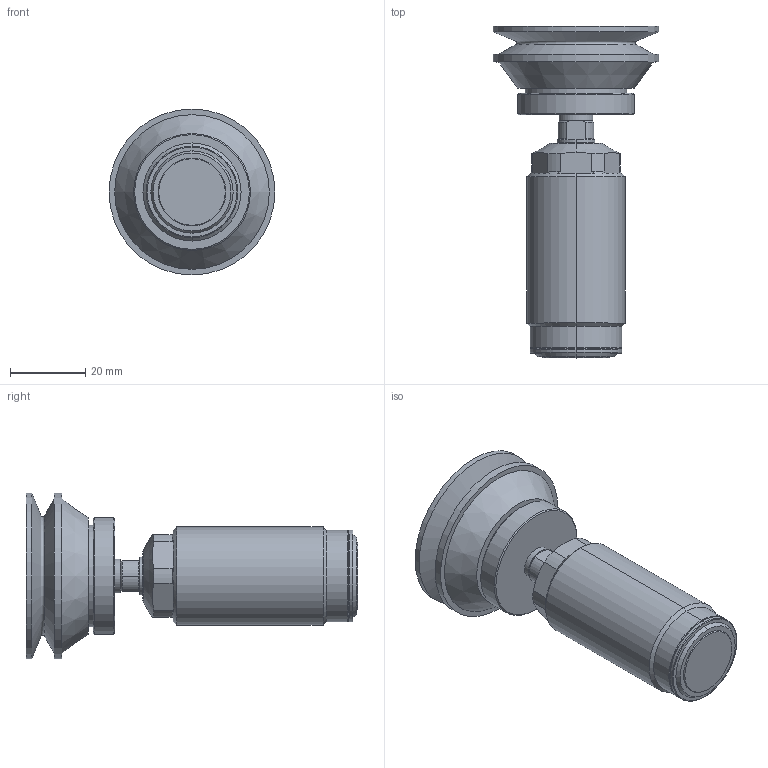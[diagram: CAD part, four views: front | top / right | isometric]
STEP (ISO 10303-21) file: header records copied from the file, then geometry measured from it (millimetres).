
FILE_DESCRIPTION(/* description */ (''),/* implementation_level */ '2;1');
FILE_NAME(/* name */ 'TSC00-D吸盘型.stp',/* time_stamp */ '2026-05-12T09:50:04+08:00',/* author */ (''),/* organization */ (''),/* preprocessor_version */ 'ST-DEVELOPER v16.7',/* originating_system */ 'SIEMENS PLM Software NX 12.0',/* authorisation */ '');
FILE_SCHEMA (('AUTOMOTIVE_DESIGN { 1 0 10303 214 3 1 1 1 }'));
Length unit declared in the file: millimetre
Products named in the file (7): 4; 3; 2; 1; TSC00-02; TSC00-01; TSC00_stp
Assembly tree (6 placements, depth 2):
  TSC00_stp
    TSC00-01
    TSC00-02
    1
    2
    3
    4
Bounding box: 44 x 88 x 44 mm (x, y, z)
Volume: 42527.1 mm3; surface area: 18596.1 mm2
Topology: 6 solids, 6 shells, 125 faces, 280 edges, 175 vertices
Faces by surface type: plane 48, cylinder 35, cone 29, torus 12, sphere 1
Full cylindrical faces by diameter (mm): 6 x1, 9 x1, 15.7 x1, 16 x1, 23 x1, 27 x1, 27.5 x1, 31 x1, 44 x2
Entity records: 3541 total; most frequent: CARTESIAN_POINT 636, DIRECTION 630, ORIENTED_EDGE 500, AXIS2_PLACEMENT_3D 276, EDGE_CURVE 250, VERTEX_POINT 170, EDGE_LOOP 164, CIRCLE 144
